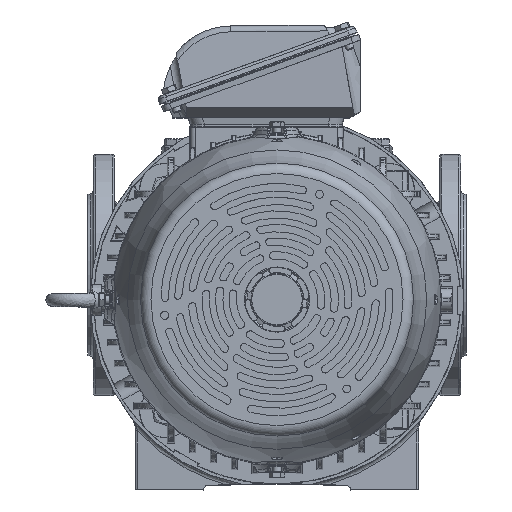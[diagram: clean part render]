
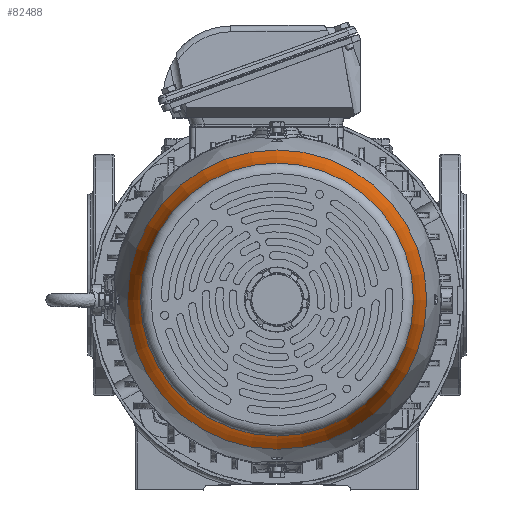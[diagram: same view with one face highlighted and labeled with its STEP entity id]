
A CAD part, top view. The second image highlights one B-rep face of the part: STEP entity #82488.
In plain terms, the highlighted toroidal (fillet/blend) face has major radius 308.616 mm and minor radius 180 mm.
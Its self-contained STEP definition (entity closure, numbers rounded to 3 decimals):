
#45=TOROIDAL_SURFACE('',#88635,308.617,180.);
#15797=FACE_OUTER_BOUND('',#20631,.T.);
#20631=EDGE_LOOP('',(#57306,#57307,#57308,#57309,#57310,#57311));
#26010=CIRCLE('',#88616,142.487);
#26011=CIRCLE('',#88617,142.487);
#26029=CIRCLE('',#88636,180.);
#26030=CIRCLE('',#88637,129.927);
#26031=CIRCLE('',#88638,129.927);
#34203=VERTEX_POINT('',#127837);
#34204=VERTEX_POINT('',#127841);
#34238=VERTEX_POINT('',#128131);
#34239=VERTEX_POINT('',#128133);
#43010=EDGE_CURVE('',#34203,#34204,#26010,.T.);
#43011=EDGE_CURVE('',#34204,#34203,#26011,.T.);
#43046=EDGE_CURVE('',#34203,#34238,#26029,.T.);
#43047=EDGE_CURVE('',#34238,#34239,#26030,.T.);
#43048=EDGE_CURVE('',#34239,#34238,#26031,.T.);
#57306=ORIENTED_EDGE('',*,*,#43011,.F.);
#57307=ORIENTED_EDGE('',*,*,#43010,.F.);
#57308=ORIENTED_EDGE('',*,*,#43046,.T.);
#57309=ORIENTED_EDGE('',*,*,#43047,.T.);
#57310=ORIENTED_EDGE('',*,*,#43048,.T.);
#57311=ORIENTED_EDGE('',*,*,#43046,.F.);
#82488=ADVANCED_FACE('',(#15797),#45,.F.);
#88616=AXIS2_PLACEMENT_3D('',#127842,#100263,#100264);
#88617=AXIS2_PLACEMENT_3D('',#127843,#100265,#100266);
#88635=AXIS2_PLACEMENT_3D('',#128130,#100301,#100302);
#88636=AXIS2_PLACEMENT_3D('',#128132,#100303,#100304);
#88637=AXIS2_PLACEMENT_3D('',#128134,#100305,#100306);
#88638=AXIS2_PLACEMENT_3D('',#128135,#100307,#100308);
#100263=DIRECTION('center_axis',(0.,0.,
-1.));
#100264=DIRECTION('ref_axis',(-1.,0.,0.));
#100265=DIRECTION('center_axis',(0.,0.,
-1.));
#100266=DIRECTION('ref_axis',(-1.,0.,0.));
#100301=DIRECTION('center_axis',(0.,0.,
-1.));
#100302=DIRECTION('ref_axis',(-1.,0.,0.));
#100303=DIRECTION('center_axis',(0.,1.,0.));
#100304=DIRECTION('ref_axis',(1.,0.,0.));
#100305=DIRECTION('center_axis',(0.,0.,
-1.));
#100306=DIRECTION('ref_axis',(-1.,0.,0.));
#100307=DIRECTION('center_axis',(0.,0.,
-1.));
#100308=DIRECTION('ref_axis',(-1.,0.,0.));
#127837=CARTESIAN_POINT('',(142.487,0.,597.799));
#127841=CARTESIAN_POINT('',(-142.487,0.,597.799));
#127842=CARTESIAN_POINT('Origin',(0.,0.,
597.799));
#127843=CARTESIAN_POINT('Origin',(0.,0.,
597.799));
#128130=CARTESIAN_POINT('Origin',(0.,0.,
667.087));
#128131=CARTESIAN_POINT('',(129.927,0.,645.405));
#128132=CARTESIAN_POINT('Origin',(308.617,0.,
667.087));
#128133=CARTESIAN_POINT('',(-129.927,0.,645.405));
#128134=CARTESIAN_POINT('Origin',(0.,0.,
645.405));
#128135=CARTESIAN_POINT('Origin',(0.,0.,
645.405));
